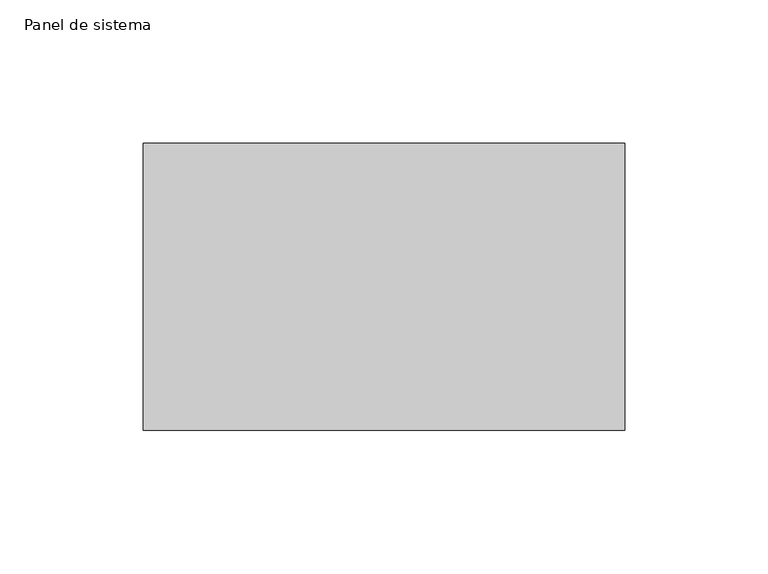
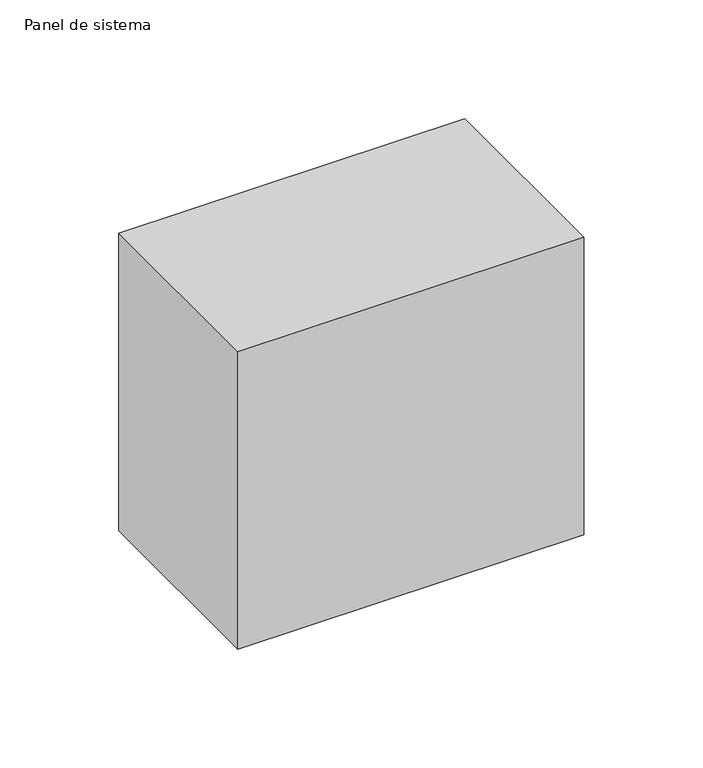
"""IFC4 building model written with IfcOpenShell, lengths in millimetres: plate geometry, Panel de sistema : PAVES."""

from ifc_helpers import new_model, si_unit, origin, origin_with_axes, place, context, project, spatial, polyline, outline, extrude, source, transform, mapped, element, save


def panel_de_sistema_20889c13(model_context):
    return source(origin(), model_context, "Body", "SweptSolid", [
        extrude(outline(polyline([(83.8692571, -50.0), (-83.8692571, -50.0), (-83.8692571, 50.0), (83.8692571, 50.0), (83.8692571, -50.0)])), origin_with_axes(), (0.0, 0.0, 1.0), 152.5),
    ])


if __name__ == "__main__":
    model = new_model("IFC4")
    model_context = context("Model", 3, world=origin())
    ifc_project = project(units=[si_unit("LENGTHUNIT", "METRE", prefix="MILLI")], contexts=[model_context])
    site = spatial("IfcSite", under=ifc_project)
    building = spatial("IfcBuilding", under=site)
    placement = place(None, origin())
    panel_de_sistema_shape = panel_de_sistema_20889c13(model_context)
    element("IfcPlate", 1, ObjectType="Panel de sistema : PAVES", at=placement, inside=building, context=model_context, shape_type="MappedRepresentation", body=[
        mapped(panel_de_sistema_shape, transform((0.0, 0.0, 0.0), x_axis=(1.0, 0.0, 0.0), y_axis=(0.0, 1.0, 0.0), z_axis=(0.0, 0.0, 1.0))),
    ])
    save(model, "model.ifc")
